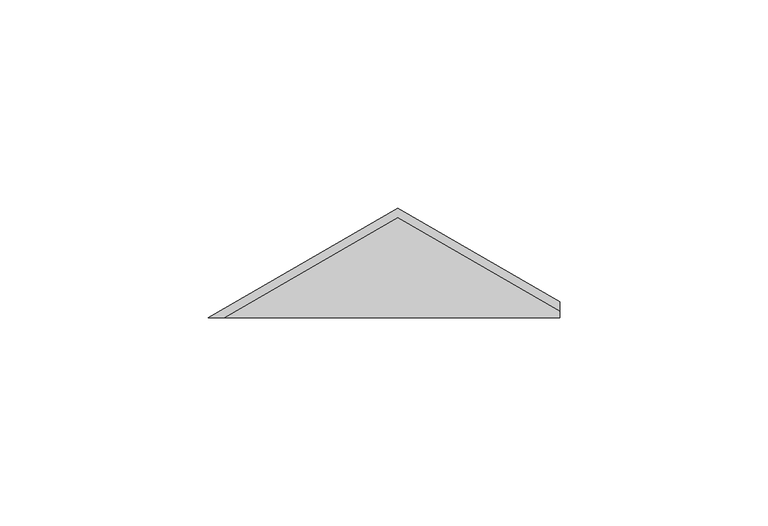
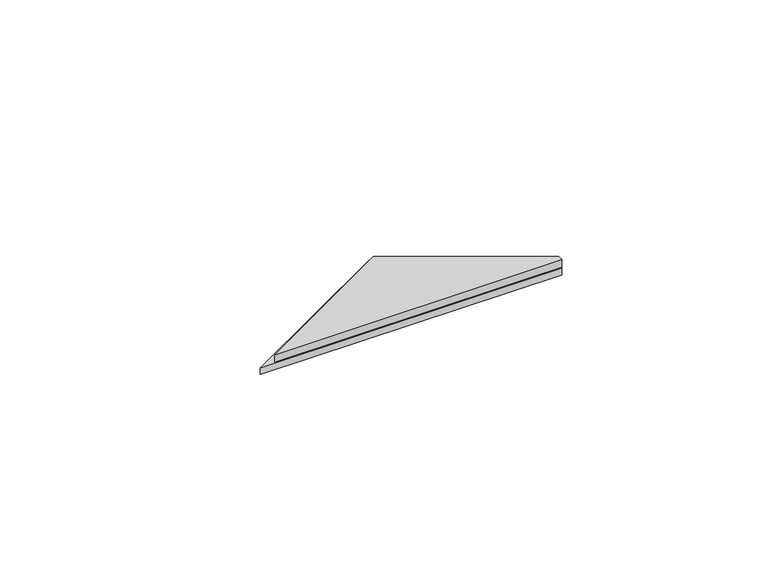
"""IFC4 building model written with IfcOpenShell, lengths in millimetres: proxy geometry, PBSHOP - CUBICA ARGENTO 4,8X8,3 : CUBICA ARGENTO - POSIÇÃO 03."""

from ifc_helpers import new_model, si_unit, origin, place, context, project, spatial, faceted_brep, source, transform, mapped, element, save


def generic_models_e1ce04d0(model_context):
    return source(origin(), model_context, "Body", "Brep", [
        faceted_brep([(0.0, 26.3094011, 2.0), (-45.5692194, 0.0, 2.0), (38.9692194, -0.0094011, 2.0), (38.9692194, 3.8105118, 2.0), (-45.5692194, 0.0, 0.0), (0.0, 26.3094011, 0.0), (38.9692194, 3.8105118, 0.0), (38.9692194, -0.0094011, 0.0)], [[[0, 1, 2, 3]], [[4, 5, 6, 7]], [[1, 0, 5, 4]], [[5, 0, 3, 6]], [[2, 7, 6, 3]], [[7, 2, 1, 4]]]),
        faceted_brep([(0.0, 24.0, 4.5), (-41.5692194, 0.0, 4.5), (38.9692194, -0.0094011, 4.5), (38.9692194, 1.5011107, 4.5), (-41.5692194, 0.0, 2.0), (0.0, 24.0, 2.0), (38.9692194, 1.5011107, 2.0), (38.9692194, -0.0094011, 2.0)], [[[0, 1, 2, 3]], [[4, 5, 6, 7]], [[1, 0, 5, 4]], [[5, 0, 3, 6]], [[2, 7, 6, 3]], [[7, 2, 1, 4]]]),
    ])


if __name__ == "__main__":
    model = new_model("IFC4")
    model_context = context("Model", 3, world=origin())
    ifc_project = project(units=[si_unit("LENGTHUNIT", "METRE", prefix="MILLI")], contexts=[model_context])
    site = spatial("IfcSite", under=ifc_project)
    building = spatial("IfcBuilding", under=site)
    placement = place(None, origin())
    generic_models_shape = generic_models_e1ce04d0(model_context)
    element("IfcBuildingElementProxy", 1, Name="PBSHOP - CUBICA ARGENTO 4,8X8,3 : CUBICA ARGENTO - POSIÇÃO 03", ObjectType="PBSHOP - CUBICA ARGENTO 4,8X8,3 : CUBICA ARGENTO - POSIÇÃO 03", at=placement, inside=building, context=model_context, shape_type="MappedRepresentation", body=[
        mapped(generic_models_shape, transform((0.0, 0.0, 0.0), x_axis=(1.0, 0.0, 0.0), y_axis=(0.0, 1.0, 0.0), z_axis=(0.0, 0.0, 1.0))),
    ])
    save(model, "model.ifc")
